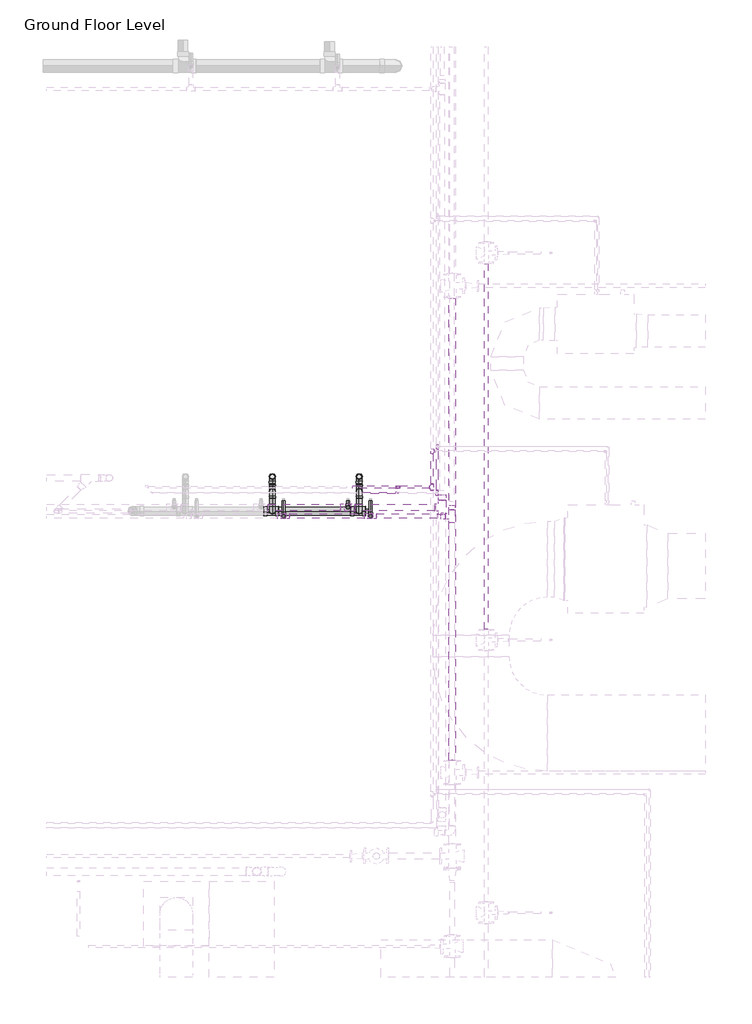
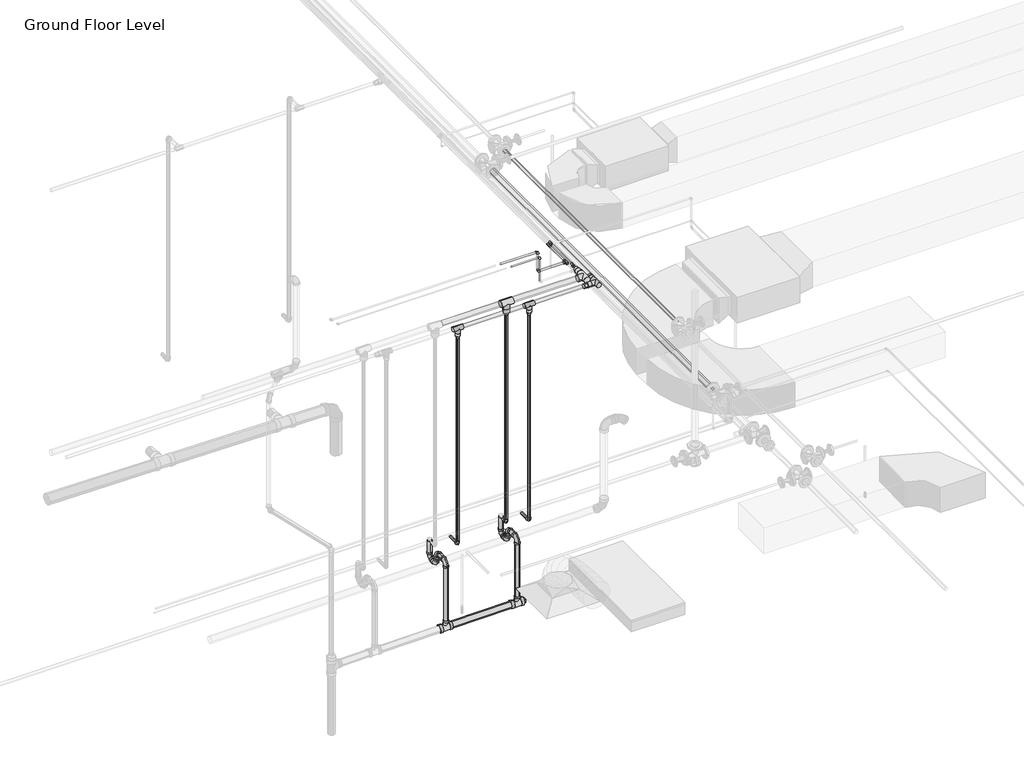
# One storey, part 18 of 75: 37 pipe fittings, 30 pipe segments.
"""IFC4 building model written with IfcOpenShell, lengths in millimetres."""

from ifc_helpers import new_model, si_unit, point, frame, frame_2d, origin, place, context, project, spatial, circle_curve, trimmed, segment, composite_curve, outline, extrude, transform, mapped, element, save
from components import m_bend_pvc_sch_40_dwv_standard_1e7bdcc1, m_bend_pvc_sch_40_dwv_standard_776e50c4, m_bend_pvc_sch_40_dwv_standard_aab78995, m_elbow_generic_standard_73005802, m_elbow_generic_standard_bb5ffebe, m_plug_pvc_sch_40_dwv_standard_af737ab4, m_tee_generic_standard_5b2ed4d4, m_tee_generic_standard_cdc1cff5, m_tee_generic_standard_5078887e, m_tee_generic_standard_bbfc025c, m_tee_reducing_sanitary_pvc_sch_40_dwv_standard_21d2848c, m_transition_generic_standard_6dc712c0, m_transition_generic_standard_2351da66, m_transition_generic_standard_44e35838, m_transition_generic_standard_22c7c9f4, standard_b266ab3f, standard_08ff6011, standard_cd25fed3, standard_5079833c, standard_bbae78af, standard_a995ec02, standard_83629b21, standard_9d5ac8af, standard_77f9104c

model = new_model("IFC4")

# Units and contexts
model_context = context("Model", 3, world=origin())
ifc_project = project(units=[si_unit("LENGTHUNIT", "METRE", prefix="MILLI")], contexts=[model_context])

# Site, building, storey
site = spatial("IfcSite", under=ifc_project)
building = spatial("IfcBuilding", under=site)
storey = spatial("IfcBuildingStorey", under=building, Name="Ground Floor Level", Elevation=900.0)

# Pipe fittings
placement = place(None, origin())
m_bend_pvc_sch_40_dwv_standard_shape = m_bend_pvc_sch_40_dwv_standard_1e7bdcc1(model_context)
element("IfcPipeFitting", 1, ObjectType="M_Bend - PVC - Sch 40 - DWV : Standard", at=placement, inside=storey, context=model_context, shape_type="MappedRepresentation", body=[
    mapped(m_bend_pvc_sch_40_dwv_standard_shape, transform((4826.7846789, -32541.2164355, 1350.0), x_axis=(0.0, 0.0, -1.0), y_axis=(0.0, -1.0, 0.0), z_axis=(-1.0, 0.0, 0.0))),
])
element("IfcPipeFitting", 2, ObjectType="M_Bend - PVC - Sch 40 - DWV : Standard", at=placement, inside=storey, context=model_context, shape_type="MappedRepresentation", body=[
    mapped(m_bend_pvc_sch_40_dwv_standard_shape, transform((4026.7846789, -32541.2164355, 1350.0), x_axis=(0.0, 0.0, -1.0), y_axis=(0.0, -1.0, 0.0), z_axis=(-1.0, 0.0, 0.0))),
])
element("IfcPipeFitting", 3, ObjectType="M_Bend - PVC - Sch 40 - DWV : Standard", at=placement, inside=storey, context=model_context, shape_type="MappedRepresentation", body=[
    mapped(m_bend_pvc_sch_40_dwv_standard_shape, transform((4026.7846789, -32858.7119065, 1488.4250453), x_axis=(0.0, -0.9999500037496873, -0.009999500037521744), y_axis=(0.0, 0.009999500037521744, -0.9999500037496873), z_axis=(1.0, 0.0, 0.0))),
])
m_bend_pvc_sch_40_dwv_standard_2_shape = m_bend_pvc_sch_40_dwv_standard_776e50c4(model_context)
element("IfcPipeFitting", 4, ObjectType="M_Bend - PVC - Sch 40 - DWV : Standard", at=placement, inside=storey, context=model_context, shape_type="MappedRepresentation", body=[
    mapped(m_bend_pvc_sch_40_dwv_standard_2_shape, transform((4826.7846789, -32676.2164355, 1348.45), x_axis=(0.0, -0.9999500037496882, -0.009999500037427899), y_axis=(0.0, -0.009999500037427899, 0.9999500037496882), z_axis=(-1.0, 0.0, 0.0))),
])
element("IfcPipeFitting", 5, ObjectType="M_Bend - PVC - Sch 40 - DWV : Standard", at=placement, inside=storey, context=model_context, shape_type="MappedRepresentation", body=[
    mapped(m_bend_pvc_sch_40_dwv_standard_2_shape, transform((4826.7846789, -32676.2164355, 1490.0), x_axis=(0.0, 0.0, 1.0), y_axis=(0.0, -1.0, 0.0), z_axis=(1.0, 0.0, 0.0))),
])
element("IfcPipeFitting", 6, ObjectType="M_Bend - PVC - Sch 40 - DWV : Standard", at=placement, inside=storey, context=model_context, shape_type="MappedRepresentation", body=[
    mapped(m_bend_pvc_sch_40_dwv_standard_2_shape, transform((4026.7846789, -32676.2164355, 1348.45), x_axis=(0.0, -0.9999500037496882, -0.009999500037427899), y_axis=(0.0, -0.009999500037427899, 0.9999500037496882), z_axis=(-1.0, 0.0, 0.0))),
])
element("IfcPipeFitting", 7, ObjectType="M_Bend - PVC - Sch 40 - DWV : Standard", at=placement, inside=storey, context=model_context, shape_type="MappedRepresentation", body=[
    mapped(m_bend_pvc_sch_40_dwv_standard_2_shape, transform((4026.7846789, -32676.2164355, 1490.0), x_axis=(0.0, 0.0, 1.0), y_axis=(0.0, -1.0, 0.0), z_axis=(1.0, 0.0, 0.0))),
])
m_bend_pvc_sch_40_dwv_standard_3_shape = m_bend_pvc_sch_40_dwv_standard_aab78995(model_context)
element("IfcPipeFitting", 8, ObjectType="M_Bend - PVC - Sch 40 - DWV : Standard", at=placement, inside=storey, context=model_context, shape_type="MappedRepresentation", body=[
    mapped(m_bend_pvc_sch_40_dwv_standard_3_shape, transform((4826.7846789, -32858.7119065, 1488.4250453), x_axis=(0.0, -0.999968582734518, -0.007926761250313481), y_axis=(0.0, 0.007926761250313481, -0.999968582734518), z_axis=(1.0, 0.0, 0.0))),
])
m_elbow_generic_standard_shape = m_elbow_generic_standard_73005802(model_context)
element("IfcPipeFitting", 9, ObjectType="M_Elbow - Generic : Standard", at=placement, inside=storey, context=model_context, shape_type="MappedRepresentation", body=[
    mapped(m_elbow_generic_standard_shape, transform((5183.4438829, -32638.716218, 4390.0), x_axis=(-1.0, 0.0, 0.0), y_axis=(0.0, 0.0, 1.0), z_axis=(0.0, 1.0, 0.0))),
])
element("IfcPipeFitting", 10, ObjectType="M_Elbow - Generic : Standard", at=placement, inside=storey, context=model_context, shape_type="MappedRepresentation", body=[
    mapped(m_elbow_generic_standard_shape, transform((5183.4438829, -32638.716218, 4621.4908765), x_axis=(0.0, 0.0, 1.0), y_axis=(-1.0, 0.0, 0.0), z_axis=(0.0, -1.0, 0.0))),
])
m_elbow_generic_standard_2_shape = m_elbow_generic_standard_bb5ffebe(model_context)
element("IfcPipeFitting", 11, ObjectType="M_Elbow - Generic : Standard", at=placement, inside=storey, context=model_context, shape_type="MappedRepresentation", body=[
    mapped(m_elbow_generic_standard_2_shape, transform((5176.1749541, -32691.5527522, 4591.0863665), x_axis=(0.0, 0.0, 1.0), y_axis=(-1.0, 0.0, 0.0), z_axis=(0.0, -1.0, 0.0))),
])
m_plug_pvc_sch_40_dwv_standard_shape = m_plug_pvc_sch_40_dwv_standard_af737ab4(model_context)
element("IfcPipeFitting", 12, ObjectType="M_Plug - PVC - Sch 40 - DWV : Standard", at=placement, inside=storey, context=model_context, shape_type="MappedRepresentation", body=[
    mapped(m_plug_pvc_sch_40_dwv_standard_shape, transform((4886.2674481, -32858.7119065, 723.0545203), x_axis=(0.9999500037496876, 0.0, 0.009999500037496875), y_axis=(0.009999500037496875, 0.0, -0.9999500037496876), z_axis=(0.0, 1.0, 0.0))),
])
m_tee_generic_standard_shape = m_tee_generic_standard_5b2ed4d4(model_context)
element("IfcPipeFitting", 13, ObjectType="M_Tee - Generic : Standard", at=placement, inside=storey, context=model_context, shape_type="MappedRepresentation", body=[
    mapped(m_tee_generic_standard_shape, transform((5543.9904113, -32264.9316538, 4377.5), x_axis=(0.0, -1.0, 0.0), y_axis=(0.0, 0.0, 1.0), z_axis=(-1.0, 0.0, 0.0))),
])
m_tee_generic_standard_2_shape = m_tee_generic_standard_cdc1cff5(model_context)
element("IfcPipeFitting", 14, ObjectType="M_Tee - Generic : Standard", at=placement, inside=storey, context=model_context, shape_type="MappedRepresentation", body=[
    mapped(m_tee_generic_standard_2_shape, transform((5543.9904113, -32691.5527522, 4377.5), x_axis=(0.0, -1.0, 0.0), y_axis=(0.0, 0.0, 1.0), z_axis=(-1.0, 0.0, 0.0))),
])
m_tee_generic_standard_3_shape = m_tee_generic_standard_5078887e(model_context)
element("IfcPipeFitting", 15, ObjectType="M_Tee - Generic : Standard", at=placement, inside=storey, context=model_context, shape_type="MappedRepresentation", body=[
    mapped(m_tee_generic_standard_3_shape, transform((5497.8951827, -32307.4513653, 4390.0), x_axis=(0.0, -1.0, 0.0), y_axis=(-1.0, 0.0, 0.0), z_axis=(0.0, 0.0, -1.0))),
])
m_tee_generic_standard_4_shape = m_tee_generic_standard_bbfc025c(model_context)
element("IfcPipeFitting", 16, ObjectType="M_Tee - Generic : Standard", at=placement, inside=storey, context=model_context, shape_type="MappedRepresentation", body=[
    mapped(m_tee_generic_standard_4_shape, transform((5497.8951827, -32638.716218, 4390.0), x_axis=(0.0, -1.0, 0.0), y_axis=(1.0, 0.0, 0.0), z_axis=(0.0, 0.0, 1.0))),
])
m_tee_reducing_sanitary_pvc_sch_40_dwv_standard_shape = m_tee_reducing_sanitary_pvc_sch_40_dwv_standard_21d2848c(model_context)
element("IfcPipeFitting", 17, ObjectType="M_Tee Reducing Sanitary - PVC - Sch 40 - DWV : Standard", at=placement, inside=storey, context=model_context, shape_type="MappedRepresentation", body=[
    mapped(m_tee_reducing_sanitary_pvc_sch_40_dwv_standard_shape, transform((4826.7846789, -32858.7119065, 722.4596926), x_axis=(0.9999500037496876, 0.0, 0.009999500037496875), y_axis=(0.009999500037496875, 0.0, -0.9999500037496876), z_axis=(0.0, 1.0, 0.0))),
])
element("IfcPipeFitting", 18, ObjectType="M_Tee Reducing Sanitary - PVC - Sch 40 - DWV : Standard", at=placement, inside=storey, context=model_context, shape_type="MappedRepresentation", body=[
    mapped(m_tee_reducing_sanitary_pvc_sch_40_dwv_standard_shape, transform((4026.7846789, -32858.7119065, 714.4596926), x_axis=(0.9999500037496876, 0.0, 0.009999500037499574), y_axis=(0.009999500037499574, 0.0, -0.9999500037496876), z_axis=(0.0, 1.0, 0.0))),
])
m_transition_generic_standard_shape = m_transition_generic_standard_6dc712c0(model_context)
element("IfcPipeFitting", 19, ObjectType="M_Transition - Generic : Standard", at=placement, inside=storey, context=model_context, shape_type="MappedRepresentation", body=[
    mapped(m_transition_generic_standard_shape, transform((5543.9904113, -32669.3277522, 4377.5), x_axis=(0.0, 1.0, 0.0), y_axis=(-1.0, 0.0, 0.0), z_axis=(0.0, 0.0, 1.0))),
])
element("IfcPipeFitting", 20, ObjectType="M_Transition - Generic : Standard", at=placement, inside=storey, context=model_context, shape_type="MappedRepresentation", body=[
    mapped(m_transition_generic_standard_shape, transform((5543.9904113, -32713.7777522, 4377.5), x_axis=(0.0, -1.0, 0.0), y_axis=(1.0, 0.0, 0.0), z_axis=(0.0, 0.0, 1.0))),
])
m_transition_generic_standard_2_shape = m_transition_generic_standard_2351da66(model_context)
element("IfcPipeFitting", 21, ObjectType="M_Transition - Generic : Standard", at=placement, inside=storey, context=model_context, shape_type="MappedRepresentation", body=[
    mapped(m_transition_generic_standard_2_shape, transform((5497.8951827, -32613.316218, 4390.0), x_axis=(0.0, 1.0, 0.0), y_axis=(-1.0, 0.0, 0.0), z_axis=(0.0, 0.0, 1.0))),
])
m_transition_generic_standard_3_shape = m_transition_generic_standard_44e35838(model_context)
element("IfcPipeFitting", 22, ObjectType="M_Transition - Generic : Standard", at=placement, inside=storey, context=model_context, shape_type="MappedRepresentation", body=[
    mapped(m_transition_generic_standard_3_shape, transform((5521.7076827, -32307.4513653, 4390.0), x_axis=(1.0, 0.0, 0.0), y_axis=(0.0, 1.0, 0.0), z_axis=(0.0, 0.0, 1.0))),
])
m_transition_generic_standard_4_shape = m_transition_generic_standard_22c7c9f4(model_context)
element("IfcPipeFitting", 23, ObjectType="M_Transition - Generic : Standard", at=placement, inside=storey, context=model_context, shape_type="MappedRepresentation", body=[
    mapped(m_transition_generic_standard_4_shape, transform((5497.8951827, -32664.116218, 4390.0), x_axis=(0.0, -1.0, 0.0), y_axis=(1.0, 0.0, 0.0), z_axis=(0.0, 0.0, 1.0))),
])
standard_shape = standard_b266ab3f(model_context)
element("IfcPipeFitting", 24, ObjectType="M_Elbow - CPVC - Sch 40 : Standard", at=placement, inside=storey, context=model_context, shape_type="MappedRepresentation", body=[
    mapped(standard_shape, transform((4722.4697583, -32824.9853451, 1690.0), x_axis=(0.0, 0.0, -1.0), y_axis=(0.0, 1.0, 0.0), z_axis=(1.0, 0.0, 0.0))),
])
element("IfcPipeFitting", 25, ObjectType="M_Elbow - CPVC - Sch 40 : Standard", at=placement, inside=storey, context=model_context, shape_type="MappedRepresentation", body=[
    mapped(standard_shape, transform((4931.0995995, -32905.870708, 1690.0), x_axis=(0.0, -1.0, 0.0), y_axis=(0.0, 0.0, 1.0), z_axis=(-1.0, 0.0, 0.0))),
])
element("IfcPipeFitting", 26, ObjectType="M_Elbow - CPVC - Sch 40 : Standard", at=placement, inside=storey, context=model_context, shape_type="MappedRepresentation", body=[
    mapped(standard_shape, transform((4131.0995995, -32905.870708, 1690.0), x_axis=(0.0, -1.0, 0.0), y_axis=(0.0, 0.0, 1.0), z_axis=(-1.0, 0.0, 0.0))),
])
standard_2_shape = standard_08ff6011(model_context)
element("IfcPipeFitting", 27, ObjectType="M_Tee - CPVC - Sch 40 : Standard", at=placement, inside=storey, context=model_context, shape_type="MappedRepresentation", body=[
    mapped(standard_2_shape, transform((4931.0995995, -32905.870708, 4250.0), x_axis=(1.0, 0.0, 0.0), y_axis=(0.0, 0.0, 1.0), z_axis=(0.0, -1.0, 0.0))),
])
element("IfcPipeFitting", 28, ObjectType="M_Tee - CPVC - Sch 40 : Standard", at=placement, inside=storey, context=model_context, shape_type="MappedRepresentation", body=[
    mapped(standard_2_shape, transform((4131.0995995, -32905.870708, 4250.0), x_axis=(1.0, 0.0, 0.0), y_axis=(0.0, 0.0, 1.0), z_axis=(0.0, -1.0, 0.0))),
])
standard_3_shape = standard_cd25fed3(model_context)
element("IfcPipeFitting", 29, ObjectType="M_Tee - CPVC - Sch 40 : Standard", at=placement, inside=storey, context=model_context, shape_type="MappedRepresentation", body=[
    mapped(standard_3_shape, transform((5589.646628, -32824.9853451, 4300.0), x_axis=(0.0, 1.0, 0.0), y_axis=(1.0, 0.0, 0.0), z_axis=(0.0, 0.0, -1.0))),
])
element("IfcPipeFitting", 30, ObjectType="M_Tee - CPVC - Sch 40 : Standard", at=placement, inside=storey, context=model_context, shape_type="MappedRepresentation", body=[
    mapped(standard_3_shape, transform((4722.4697583, -32824.9853451, 4300.0), x_axis=(-1.0, 0.0, 0.0), y_axis=(0.0, 0.0, 1.0), z_axis=(0.0, 1.0, 0.0))),
])
standard_4_shape = standard_5079833c(model_context)
element("IfcPipeFitting", 31, ObjectType="M_Coupling Reducing - CPVC - Sch 40 : Standard", at=placement, inside=storey, context=model_context, shape_type="MappedRepresentation", body=[
    mapped(standard_4_shape, transform((5589.646628, -32758.3103451, 4300.0), x_axis=(0.0, 1.0, 0.0), y_axis=(-1.0, 0.0, 0.0), z_axis=(0.0, 0.0, 1.0))),
])
standard_5_shape = standard_bbae78af(model_context)
element("IfcPipeFitting", 32, ObjectType="M_Tee - CPVC - Sch 40 : Standard", at=placement, inside=storey, context=model_context, shape_type="MappedRepresentation", body=[
    mapped(standard_5_shape, transform((5680.5575802, -32905.870708, 4250.0), x_axis=(0.0, -1.0, 0.0), y_axis=(1.0, 0.0, 0.0), z_axis=(0.0, 0.0, 1.0))),
])
standard_6_shape = standard_a995ec02(model_context)
element("IfcPipeFitting", 33, ObjectType="M_Coupling Reducing - CPVC - Sch 40 : Standard", at=placement, inside=storey, context=model_context, shape_type="MappedRepresentation", body=[
    mapped(standard_6_shape, transform((5621.8073802, -32905.870708, 4250.0), x_axis=(-1.0, 0.0, 0.0), y_axis=(0.0, -1.0, 0.0), z_axis=(0.0, 0.0, 1.0))),
])
standard_7_shape = standard_83629b21(model_context)
element("IfcPipeFitting", 34, ObjectType="M_Coupling Reducing - CPVC - Sch 40 : Standard", at=placement, inside=storey, context=model_context, shape_type="MappedRepresentation", body=[
    mapped(standard_7_shape, transform((4931.0995995, -32905.870708, 4196.025), x_axis=(0.0, 0.0, -1.0), y_axis=(-1.0, 0.0, 0.0), z_axis=(0.0, 1.0, 0.0))),
])
element("IfcPipeFitting", 35, ObjectType="M_Coupling Reducing - CPVC - Sch 40 : Standard", at=placement, inside=storey, context=model_context, shape_type="MappedRepresentation", body=[
    mapped(standard_7_shape, transform((4131.0995995, -32905.870708, 4196.025), x_axis=(0.0, 0.0, -1.0), y_axis=(-1.0, 0.0, 0.0), z_axis=(0.0, 1.0, 0.0))),
])
standard_8_shape = standard_9d5ac8af(model_context)
element("IfcPipeFitting", 36, ObjectType="M_Coupling Reducing - CPVC - Sch 40 : Standard", at=placement, inside=storey, context=model_context, shape_type="MappedRepresentation", body=[
    mapped(standard_8_shape, transform((4722.4697583, -32824.9853451, 4233.325), x_axis=(0.0, 0.0, -1.0), y_axis=(-1.0, 0.0, 0.0), z_axis=(0.0, 1.0, 0.0))),
])
standard_9_shape = standard_77f9104c(model_context)
element("IfcPipeFitting", 37, ObjectType="M_Coupling Reducing - CPVC - Sch 40 : Standard", at=placement, inside=storey, context=model_context, shape_type="MappedRepresentation", body=[
    mapped(standard_9_shape, transform((5680.5575802, -32847.120508, 4250.0), x_axis=(0.0, 1.0, 0.0), y_axis=(-1.0, 0.0, 0.0), z_axis=(0.0, 0.0, 1.0))),
])

# Pipe segments
element("IfcPipeSegment", 38, ObjectType="CPVC", at=placement, inside=storey, context=model_context, shape_type="SweptSolid", body=[
    extrude(outline(composite_curve([segment(trimmed(circle_curve(frame_2d((-32824.9853451, 4300.0)), 30.1625), [point((-32855.1478451, 4300.0))], [point((-32824.9853451, 4330.1625))], False, "CARTESIAN"), True, "CONTINUOUS"), segment(trimmed(circle_curve(frame_2d((-32824.9853451, 4300.0)), 30.1625), [point((-32824.9853451, 4330.1625))], [point((-32794.8228451, 4300.0))], False, "CARTESIAN"), True, "CONTINUOUS"), segment(trimmed(circle_curve(frame_2d((-32824.9853451, 4300.0)), 30.1625), [point((-32794.8228451, 4300.0))], [point((-32824.9853451, 4269.8375))], False, "CARTESIAN"), True, "CONTINUOUS"), segment(trimmed(circle_curve(frame_2d((-32824.9853451, 4300.0)), 30.1625), [point((-32824.9853451, 4269.8375))], [point((-32855.1478451, 4300.0))], False, "CARTESIAN"), True, "CONTINUOUS")], self_intersect=False)), frame((4789.1447583, 0.0, 0.0), z_axis=(1.0, 0.0, 0.0), x_axis=(0.0, 1.0, 0.0)), (0.0, 0.0, 1.0), 733.8268697),
])
element("IfcPipeSegment", 39, ObjectType="CPVC", at=placement, inside=storey, context=model_context, shape_type="SweptSolid", body=[
    extrude(outline(composite_curve([segment(trimmed(circle_curve(frame_2d((1690.0, 4722.4697583)), 13.335), [point((1690.0, 4735.8047583))], [point((1703.335, 4722.4697583))], False, "CARTESIAN"), True, "CONTINUOUS"), segment(trimmed(circle_curve(frame_2d((1690.0, 4722.4697583)), 13.335), [point((1703.335, 4722.4697583))], [point((1690.0, 4709.1347583))], False, "CARTESIAN"), True, "CONTINUOUS"), segment(trimmed(circle_curve(frame_2d((1690.0, 4722.4697583)), 13.335), [point((1690.0, 4709.1347583))], [point((1676.665, 4722.4697583))], False, "CARTESIAN"), True, "CONTINUOUS"), segment(trimmed(circle_curve(frame_2d((1690.0, 4722.4697583)), 13.335), [point((1676.665, 4722.4697583))], [point((1690.0, 4735.8047583))], False, "CARTESIAN"), True, "CONTINUOUS")], self_intersect=False)), frame((0.0, -32789.6602951, 0.0), z_axis=(0.0, 1.0, 0.0), x_axis=(0.0, 0.0, 1.0)), (0.0, 0.0, 1.0), 24.8756485),
])
element("IfcPipeSegment", 40, ObjectType="CPVC", at=placement, inside=storey, context=model_context, shape_type="SweptSolid", body=[
    extrude(outline(composite_curve([segment(trimmed(circle_curve(frame_2d((4722.4697583, -32824.9853451)), 13.335), [point((4735.8047583, -32824.9853451))], [point((4722.4697583, -32838.3203451))], False, "CARTESIAN"), True, "CONTINUOUS"), segment(trimmed(circle_curve(frame_2d((4722.4697583, -32824.9853451)), 13.335), [point((4722.4697583, -32838.3203451))], [point((4709.1347583, -32824.9853451))], False, "CARTESIAN"), True, "CONTINUOUS"), segment(trimmed(circle_curve(frame_2d((4722.4697583, -32824.9853451)), 13.335), [point((4709.1347583, -32824.9853451))], [point((4722.4697583, -32811.6503451))], False, "CARTESIAN"), True, "CONTINUOUS"), segment(trimmed(circle_curve(frame_2d((4722.4697583, -32824.9853451)), 13.335), [point((4722.4697583, -32811.6503451))], [point((4735.8047583, -32824.9853451))], False, "CARTESIAN"), True, "CONTINUOUS")], self_intersect=False)), frame((0.0, 0.0, 1725.32505), z_axis=(0.0, 0.0, 1.0), x_axis=(1.0, 0.0, 0.0)), (0.0, 0.0, 1.0), 2431.503075),
])
element("IfcPipeSegment", 41, ObjectType="CPVC", at=placement, inside=storey, context=model_context, shape_type="SweptSolid", body=[
    extrude(outline(composite_curve([segment(trimmed(circle_curve(frame_2d((-32824.9853451, 4300.0)), 30.1625), [point((-32855.1478451, 4300.0))], [point((-32824.9853451, 4330.1625))], False, "CARTESIAN"), True, "CONTINUOUS"), segment(trimmed(circle_curve(frame_2d((-32824.9853451, 4300.0)), 30.1625), [point((-32824.9853451, 4330.1625))], [point((-32794.8228451, 4300.0))], False, "CARTESIAN"), True, "CONTINUOUS"), segment(trimmed(circle_curve(frame_2d((-32824.9853451, 4300.0)), 30.1625), [point((-32794.8228451, 4300.0))], [point((-32824.9853451, 4269.8375))], False, "CARTESIAN"), True, "CONTINUOUS"), segment(trimmed(circle_curve(frame_2d((-32824.9853451, 4300.0)), 30.1625), [point((-32824.9853451, 4269.8375))], [point((-32855.1478451, 4300.0))], False, "CARTESIAN"), True, "CONTINUOUS")], self_intersect=False)), frame((3989.1447583, 0.0, 0.0), z_axis=(1.0, 0.0, 0.0), x_axis=(0.0, 1.0, 0.0)), (0.0, 0.0, 1.0), 666.65),
])
element("IfcPipeSegment", 42, ObjectType="CPVC", at=placement, inside=storey, context=model_context, shape_type="SweptSolid", body=[
    extrude(outline(composite_curve([segment(trimmed(circle_curve(frame_2d((1690.0, 4931.0995995)), 13.335), [point((1690.0, 4917.7645995))], [point((1676.665, 4931.0995995))], False, "CARTESIAN"), True, "CONTINUOUS"), segment(trimmed(circle_curve(frame_2d((1690.0, 4931.0995995)), 13.335), [point((1676.665, 4931.0995995))], [point((1690.0, 4944.4345995))], False, "CARTESIAN"), True, "CONTINUOUS"), segment(trimmed(circle_curve(frame_2d((1690.0, 4931.0995995)), 13.335), [point((1690.0, 4944.4345995))], [point((1703.335, 4931.0995995))], False, "CARTESIAN"), True, "CONTINUOUS"), segment(trimmed(circle_curve(frame_2d((1690.0, 4931.0995995)), 13.335), [point((1703.335, 4931.0995995))], [point((1690.0, 4917.7645995))], False, "CARTESIAN"), True, "CONTINUOUS")], self_intersect=False)), frame((0.0, -32870.545658, 0.0), z_axis=(0.0, 1.0, 0.0), x_axis=(0.0, 0.0, 1.0)), (0.0, 0.0, 1.0), 105.7610114),
])
element("IfcPipeSegment", 43, ObjectType="CPVC", at=placement, inside=storey, context=model_context, shape_type="SweptSolid", body=[
    extrude(outline(composite_curve([segment(trimmed(circle_curve(frame_2d((4931.0995995, -32905.870708)), 13.335), [point((4917.7645995, -32905.870708))], [point((4931.0995995, -32892.535708))], False, "CARTESIAN"), True, "CONTINUOUS"), segment(trimmed(circle_curve(frame_2d((4931.0995995, -32905.870708)), 13.335), [point((4931.0995995, -32892.535708))], [point((4944.4345995, -32905.870708))], False, "CARTESIAN"), True, "CONTINUOUS"), segment(trimmed(circle_curve(frame_2d((4931.0995995, -32905.870708)), 13.335), [point((4944.4345995, -32905.870708))], [point((4931.0995995, -32919.205708))], False, "CARTESIAN"), True, "CONTINUOUS"), segment(trimmed(circle_curve(frame_2d((4931.0995995, -32905.870708)), 13.335), [point((4931.0995995, -32919.205708))], [point((4917.7645995, -32905.870708))], False, "CARTESIAN"), True, "CONTINUOUS")], self_intersect=False)), frame((0.0, 0.0, 1725.32505), z_axis=(0.0, 0.0, 1.0), x_axis=(1.0, 0.0, 0.0)), (0.0, 0.0, 1.0), 2407.883075),
])
element("IfcPipeSegment", 44, ObjectType="CPVC", at=placement, inside=storey, context=model_context, shape_type="SweptSolid", body=[
    extrude(outline(composite_curve([segment(trimmed(circle_curve(frame_2d((-32905.870708, 4250.0)), 21.082), [point((-32884.788708, 4250.0))], [point((-32905.870708, 4228.918))], False, "CARTESIAN"), True, "CONTINUOUS"), segment(trimmed(circle_curve(frame_2d((-32905.870708, 4250.0)), 21.082), [point((-32905.870708, 4228.918))], [point((-32926.952708, 4250.0))], False, "CARTESIAN"), True, "CONTINUOUS"), segment(trimmed(circle_curve(frame_2d((-32905.870708, 4250.0)), 21.082), [point((-32926.952708, 4250.0))], [point((-32905.870708, 4271.082))], False, "CARTESIAN"), True, "CONTINUOUS"), segment(trimmed(circle_curve(frame_2d((-32905.870708, 4250.0)), 21.082), [point((-32905.870708, 4271.082))], [point((-32884.788708, 4250.0))], False, "CARTESIAN"), True, "CONTINUOUS")], self_intersect=False)), frame((4985.0745995, 0.0, 0.0), z_axis=(1.0, 0.0, 0.0), x_axis=(0.0, 1.0, 0.0)), (0.0, 0.0, 1.0), 558.9940307),
])
element("IfcPipeSegment", 45, ObjectType="CPVC", at=placement, inside=storey, context=model_context, shape_type="SweptSolid", body=[
    extrude(outline(composite_curve([segment(trimmed(circle_curve(frame_2d((1690.0, 4131.0995995)), 13.335), [point((1690.0, 4117.7645995))], [point((1676.665, 4131.0995995))], False, "CARTESIAN"), True, "CONTINUOUS"), segment(trimmed(circle_curve(frame_2d((1690.0, 4131.0995995)), 13.335), [point((1676.665, 4131.0995995))], [point((1690.0, 4144.4345995))], False, "CARTESIAN"), True, "CONTINUOUS"), segment(trimmed(circle_curve(frame_2d((1690.0, 4131.0995995)), 13.335), [point((1690.0, 4144.4345995))], [point((1703.335, 4131.0995995))], False, "CARTESIAN"), True, "CONTINUOUS"), segment(trimmed(circle_curve(frame_2d((1690.0, 4131.0995995)), 13.335), [point((1703.335, 4131.0995995))], [point((1690.0, 4117.7645995))], False, "CARTESIAN"), True, "CONTINUOUS")], self_intersect=False)), frame((0.0, -32870.545658, 0.0), z_axis=(0.0, 1.0, 0.0), x_axis=(0.0, 0.0, 1.0)), (0.0, 0.0, 1.0), 105.7610114),
])
element("IfcPipeSegment", 46, ObjectType="CPVC", at=placement, inside=storey, context=model_context, shape_type="SweptSolid", body=[
    extrude(outline(composite_curve([segment(trimmed(circle_curve(frame_2d((4131.0995995, -32905.870708)), 13.335), [point((4117.7645995, -32905.870708))], [point((4131.0995995, -32892.535708))], False, "CARTESIAN"), True, "CONTINUOUS"), segment(trimmed(circle_curve(frame_2d((4131.0995995, -32905.870708)), 13.335), [point((4131.0995995, -32892.535708))], [point((4144.4345995, -32905.870708))], False, "CARTESIAN"), True, "CONTINUOUS"), segment(trimmed(circle_curve(frame_2d((4131.0995995, -32905.870708)), 13.335), [point((4144.4345995, -32905.870708))], [point((4131.0995995, -32919.205708))], False, "CARTESIAN"), True, "CONTINUOUS"), segment(trimmed(circle_curve(frame_2d((4131.0995995, -32905.870708)), 13.335), [point((4131.0995995, -32919.205708))], [point((4117.7645995, -32905.870708))], False, "CARTESIAN"), True, "CONTINUOUS")], self_intersect=False)), frame((0.0, 0.0, 1725.32505), z_axis=(0.0, 0.0, 1.0), x_axis=(1.0, 0.0, 0.0)), (0.0, 0.0, 1.0), 2407.883075),
])
element("IfcPipeSegment", 47, ObjectType="CPVC", at=placement, inside=storey, context=model_context, shape_type="SweptSolid", body=[
    extrude(outline(composite_curve([segment(trimmed(circle_curve(frame_2d((-32905.870708, 4250.0)), 21.082), [point((-32884.788708, 4250.0))], [point((-32905.870708, 4228.918))], False, "CARTESIAN"), True, "CONTINUOUS"), segment(trimmed(circle_curve(frame_2d((-32905.870708, 4250.0)), 21.082), [point((-32905.870708, 4228.918))], [point((-32926.952708, 4250.0))], False, "CARTESIAN"), True, "CONTINUOUS"), segment(trimmed(circle_curve(frame_2d((-32905.870708, 4250.0)), 21.082), [point((-32926.952708, 4250.0))], [point((-32905.870708, 4271.082))], False, "CARTESIAN"), True, "CONTINUOUS"), segment(trimmed(circle_curve(frame_2d((-32905.870708, 4250.0)), 21.082), [point((-32905.870708, 4271.082))], [point((-32884.788708, 4250.0))], False, "CARTESIAN"), True, "CONTINUOUS")], self_intersect=False)), frame((4185.0745995, 0.0, 0.0), z_axis=(1.0, 0.0, 0.0), x_axis=(0.0, 1.0, 0.0)), (0.0, 0.0, 1.0), 692.05),
])
element("IfcPipeSegment", 48, ObjectType="Copper", at=placement, inside=storey, context=model_context, shape_type="SweptSolid", body=[
    extrude(outline(composite_curve([segment(trimmed(circle_curve(frame_2d((-32638.716218, 4390.0)), 11.5), [point((-32650.216218, 4390.0))], [point((-32638.716218, 4401.5))], False, "CARTESIAN"), True, "CONTINUOUS"), segment(trimmed(circle_curve(frame_2d((-32638.716218, 4390.0)), 11.5), [point((-32638.716218, 4401.5))], [point((-32627.216218, 4390.0))], False, "CARTESIAN"), True, "CONTINUOUS"), segment(trimmed(circle_curve(frame_2d((-32638.716218, 4390.0)), 11.5), [point((-32627.216218, 4390.0))], [point((-32638.716218, 4378.5))], False, "CARTESIAN"), True, "CONTINUOUS"), segment(trimmed(circle_curve(frame_2d((-32638.716218, 4390.0)), 11.5), [point((-32638.716218, 4378.5))], [point((-32650.216218, 4390.0))], False, "CARTESIAN"), True, "CONTINUOUS")], self_intersect=False)), frame((5202.4938829, 0.0, 0.0), z_axis=(1.0, 0.0, 0.0), x_axis=(0.0, 1.0, 0.0)), (0.0, 0.0, 1.0), 270.0012998),
])
element("IfcPipeSegment", 49, ObjectType="Copper", at=placement, inside=storey, context=model_context, shape_type="SweptSolid", body=[
    extrude(outline(composite_curve([segment(trimmed(circle_curve(frame_2d((5176.1749541, -32691.5527522)), 8.1), [point((5168.0749541, -32691.5527522))], [point((5176.1749541, -32683.4527522))], False, "CARTESIAN"), True, "CONTINUOUS"), segment(trimmed(circle_curve(frame_2d((5176.1749541, -32691.5527522)), 8.1), [point((5176.1749541, -32683.4527522))], [point((5184.2749541, -32691.5527522))], False, "CARTESIAN"), True, "CONTINUOUS"), segment(trimmed(circle_curve(frame_2d((5176.1749541, -32691.5527522)), 8.1), [point((5184.2749541, -32691.5527522))], [point((5176.1749541, -32699.6527522))], False, "CARTESIAN"), True, "CONTINUOUS"), segment(trimmed(circle_curve(frame_2d((5176.1749541, -32691.5527522)), 8.1), [point((5176.1749541, -32699.6527522))], [point((5168.0749541, -32691.5527522))], False, "CARTESIAN"), True, "CONTINUOUS")], self_intersect=False)), frame((0.0, 0.0, 4315.875), z_axis=(0.0, 0.0, 1.0), x_axis=(1.0, 0.0, 0.0)), (0.0, 0.0, 1.0), 259.3363665),
])
element("IfcPipeSegment", 50, ObjectType="Copper", at=placement, inside=storey, context=model_context, shape_type="SweptSolid", body=[
    extrude(outline(composite_curve([segment(trimmed(circle_curve(frame_2d((5183.4438829, -32638.716218)), 11.5), [point((5171.9438829, -32638.716218))], [point((5183.4438829, -32627.216218))], False, "CARTESIAN"), True, "CONTINUOUS"), segment(trimmed(circle_curve(frame_2d((5183.4438829, -32638.716218)), 11.5), [point((5183.4438829, -32627.216218))], [point((5194.9438829, -32638.716218))], False, "CARTESIAN"), True, "CONTINUOUS"), segment(trimmed(circle_curve(frame_2d((5183.4438829, -32638.716218)), 11.5), [point((5194.9438829, -32638.716218))], [point((5183.4438829, -32650.216218))], False, "CARTESIAN"), True, "CONTINUOUS"), segment(trimmed(circle_curve(frame_2d((5183.4438829, -32638.716218)), 11.5), [point((5183.4438829, -32650.216218))], [point((5171.9438829, -32638.716218))], False, "CARTESIAN"), True, "CONTINUOUS")], self_intersect=False)), frame((0.0, 0.0, 4409.05), z_axis=(0.0, 0.0, 1.0), x_axis=(1.0, 0.0, 0.0)), (0.0, 0.0, 1.0), 193.3908765),
])
element("IfcPipeSegment", 51, ObjectType="Copper", at=placement, inside=storey, context=model_context, shape_type="SweptSolid", body=[
    extrude(outline(composite_curve([segment(trimmed(circle_curve(frame_2d((4390.0, 5497.8951827)), 9.75), [point((4390.0, 5507.6451827))], [point((4399.75, 5497.8951827))], False, "CARTESIAN"), True, "CONTINUOUS"), segment(trimmed(circle_curve(frame_2d((4390.0, 5497.8951827)), 9.75), [point((4399.75, 5497.8951827))], [point((4390.0, 5488.1451827))], False, "CARTESIAN"), True, "CONTINUOUS"), segment(trimmed(circle_curve(frame_2d((4390.0, 5497.8951827)), 9.75), [point((4390.0, 5488.1451827))], [point((4380.25, 5497.8951827))], False, "CARTESIAN"), True, "CONTINUOUS"), segment(trimmed(circle_curve(frame_2d((4390.0, 5497.8951827)), 9.75), [point((4380.25, 5497.8951827))], [point((4390.0, 5507.6451827))], False, "CARTESIAN"), True, "CONTINUOUS")], self_intersect=False)), frame((0.0, -32606.966218, 0.0), z_axis=(0.0, 1.0, 0.0), x_axis=(0.0, 0.0, 1.0)), (0.0, 0.0, 1.0), 275.7023527),
])
element("IfcPipeSegment", 52, ObjectType="Copper", at=placement, inside=storey, context=model_context, shape_type="SweptSolid", body=[
    extrude(outline(composite_curve([segment(trimmed(circle_curve(frame_2d((4377.5, 5543.9904113)), 6.5), [point((4377.5, 5550.4904113))], [point((4384.0, 5543.9904113))], False, "CARTESIAN"), True, "CONTINUOUS"), segment(trimmed(circle_curve(frame_2d((4377.5, 5543.9904113)), 6.5), [point((4384.0, 5543.9904113))], [point((4377.5, 5537.4904113))], False, "CARTESIAN"), True, "CONTINUOUS"), segment(trimmed(circle_curve(frame_2d((4377.5, 5543.9904113)), 6.5), [point((4377.5, 5537.4904113))], [point((4371.0, 5543.9904113))], False, "CARTESIAN"), True, "CONTINUOUS"), segment(trimmed(circle_curve(frame_2d((4377.5, 5543.9904113)), 6.5), [point((4371.0, 5543.9904113))], [point((4377.5, 5550.4904113))], False, "CARTESIAN"), True, "CONTINUOUS")], self_intersect=False)), frame((0.0, -32664.5652522, 0.0), z_axis=(0.0, 1.0, 0.0), x_axis=(0.0, 0.0, 1.0)), (0.0, 0.0, 1.0), 378.9960985),
])
element("IfcPipeSegment", 53, ObjectType="Copper", at=placement, inside=storey, context=model_context, shape_type="SweptSolid", body=[
    extrude(outline(composite_curve([segment(trimmed(circle_curve(frame_2d((-32638.716218, 4621.4908765)), 11.5), [point((-32650.216218, 4621.4908765))], [point((-32638.716218, 4632.9908765))], False, "CARTESIAN"), True, "CONTINUOUS"), segment(trimmed(circle_curve(frame_2d((-32638.716218, 4621.4908765)), 11.5), [point((-32638.716218, 4632.9908765))], [point((-32627.216218, 4621.4908765))], False, "CARTESIAN"), True, "CONTINUOUS"), segment(trimmed(circle_curve(frame_2d((-32638.716218, 4621.4908765)), 11.5), [point((-32627.216218, 4621.4908765))], [point((-32638.716218, 4609.9908765))], False, "CARTESIAN"), True, "CONTINUOUS"), segment(trimmed(circle_curve(frame_2d((-32638.716218, 4621.4908765)), 11.5), [point((-32638.716218, 4609.9908765))], [point((-32650.216218, 4621.4908765))], False, "CARTESIAN"), True, "CONTINUOUS")], self_intersect=False)), frame((4766.9205946, 0.0, 0.0), z_axis=(1.0, 0.0, 0.0), x_axis=(0.0, 1.0, 0.0)), (0.0, 0.0, 1.0), 397.4732883),
])
element("IfcPipeSegment", 54, ObjectType="Copper", at=placement, inside=storey, context=model_context, shape_type="SweptSolid", body=[
    extrude(outline(composite_curve([segment(trimmed(circle_curve(frame_2d((-32691.5527522, 4591.0863665)), 8.1), [point((-32683.4527522, 4591.0863665))], [point((-32691.5527522, 4582.9863665))], False, "CARTESIAN"), True, "CONTINUOUS"), segment(trimmed(circle_curve(frame_2d((-32691.5527522, 4591.0863665)), 8.1), [point((-32691.5527522, 4582.9863665))], [point((-32699.6527522, 4591.0863665))], False, "CARTESIAN"), True, "CONTINUOUS"), segment(trimmed(circle_curve(frame_2d((-32691.5527522, 4591.0863665)), 8.1), [point((-32699.6527522, 4591.0863665))], [point((-32691.5527522, 4599.1863665))], False, "CARTESIAN"), True, "CONTINUOUS"), segment(trimmed(circle_curve(frame_2d((-32691.5527522, 4591.0863665)), 8.1), [point((-32691.5527522, 4599.1863665))], [point((-32683.4527522, 4591.0863665))], False, "CARTESIAN"), True, "CONTINUOUS")], self_intersect=False)), frame((4856.6970185, 0.0, 0.0), z_axis=(1.0, 0.0, 0.0), x_axis=(0.0, 1.0, 0.0)), (0.0, 0.0, 1.0), 303.6029356),
])
element("IfcPipeSegment", 55, ObjectType="PVC - DWV", at=placement, inside=storey, context=model_context, shape_type="SweptSolid", body=[
    extrude(outline(composite_curve([segment(trimmed(circle_curve(frame_2d((4826.7846789, -32541.2164355)), 24.13), [point((4850.9146789, -32541.2164355))], [point((4826.7846789, -32565.3464355))], False, "CARTESIAN"), True, "CONTINUOUS"), segment(trimmed(circle_curve(frame_2d((4826.7846789, -32541.2164355)), 24.13), [point((4826.7846789, -32565.3464355))], [point((4802.6546789, -32541.2164355))], False, "CARTESIAN"), True, "CONTINUOUS"), segment(trimmed(circle_curve(frame_2d((4826.7846789, -32541.2164355)), 24.13), [point((4802.6546789, -32541.2164355))], [point((4826.7846789, -32517.0864355))], False, "CARTESIAN"), True, "CONTINUOUS"), segment(trimmed(circle_curve(frame_2d((4826.7846789, -32541.2164355)), 24.13), [point((4826.7846789, -32517.0864355))], [point((4850.9146789, -32541.2164355))], False, "CARTESIAN"), True, "CONTINUOUS")], self_intersect=False)), frame((0.0, 0.0, 1411.8998), z_axis=(0.0, 0.0, 1.0), x_axis=(1.0, 0.0, 0.0)), (0.0, 0.0, 1.0), 138.1002),
])
element("IfcPipeSegment", 56, ObjectType="PVC - DWV", at=placement, inside=storey, context=model_context, shape_type="SweptSolid", body=[
    extrude(outline(composite_curve([segment(trimmed(circle_curve(frame_2d((0.0, -24.13)), 24.13), [point((-24.13, -24.13))], [point((0.0, 0.0))], False, "CARTESIAN"), True, "CONTINUOUS"), segment(trimmed(circle_curve(frame_2d((0.0, -24.13)), 24.13), [point((0.0, 0.0))], [point((24.13, -24.13))], False, "CARTESIAN"), True, "CONTINUOUS"), segment(trimmed(circle_curve(frame_2d((0.0, -24.13)), 24.13), [point((24.13, -24.13))], [point((0.0, -48.2599999))], False, "CARTESIAN"), True, "CONTINUOUS"), segment(trimmed(circle_curve(frame_2d((0.0, -24.13)), 24.13), [point((0.0, -48.2599999))], [point((-24.13, -24.13))], False, "CARTESIAN"), True, "CONTINUOUS")], self_intersect=False)), frame((4826.7846789, -32614.0784423, 1324.9401735), z_axis=(0.0, 0.9999500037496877, 0.009999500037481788), x_axis=(1.0, 0.0, 0.0)), (0.0, 0.0, 1.0), 11.2091497),
])
element("IfcPipeSegment", 57, ObjectType="PVC - DWV", at=placement, inside=storey, context=model_context, shape_type="SweptSolid", body=[
    extrude(outline(composite_curve([segment(trimmed(circle_curve(frame_2d((4826.7846789, -32676.2164355)), 24.13), [point((4802.6546789, -32676.2164355))], [point((4826.7846789, -32652.0864355))], False, "CARTESIAN"), True, "CONTINUOUS"), segment(trimmed(circle_curve(frame_2d((4826.7846789, -32676.2164355)), 24.13), [point((4826.7846789, -32652.0864355))], [point((4850.9146789, -32676.2164355))], False, "CARTESIAN"), True, "CONTINUOUS"), segment(trimmed(circle_curve(frame_2d((4826.7846789, -32676.2164355)), 24.13), [point((4850.9146789, -32676.2164355))], [point((4826.7846789, -32700.3464355))], False, "CARTESIAN"), True, "CONTINUOUS"), segment(trimmed(circle_curve(frame_2d((4826.7846789, -32676.2164355)), 24.13), [point((4826.7846789, -32700.3464355))], [point((4802.6546789, -32676.2164355))], False, "CARTESIAN"), True, "CONTINUOUS")], self_intersect=False)), frame((0.0, 0.0, 1410.3498), z_axis=(0.0, 0.0, 1.0), x_axis=(1.0, 0.0, 0.0)), (0.0, 0.0, 1.0), 17.7504),
])
element("IfcPipeSegment", 58, ObjectType="PVC - DWV", at=placement, inside=storey, context=model_context, shape_type="SweptSolid", body=[
    extrude(outline(composite_curve([segment(trimmed(circle_curve(frame_2d((0.0, -24.13)), 24.13), [point((-24.13, -24.13))], [point((0.0, 0.0))], False, "CARTESIAN"), True, "CONTINUOUS"), segment(trimmed(circle_curve(frame_2d((0.0, -24.13)), 24.13), [point((0.0, 0.0))], [point((24.13, -24.13))], False, "CARTESIAN"), True, "CONTINUOUS"), segment(trimmed(circle_curve(frame_2d((0.0, -24.13)), 24.13), [point((24.13, -24.13))], [point((0.0, -48.26))], False, "CARTESIAN"), True, "CONTINUOUS"), segment(trimmed(circle_curve(frame_2d((0.0, -24.13)), 24.13), [point((0.0, -48.26))], [point((-24.13, -24.13))], False, "CARTESIAN"), True, "CONTINUOUS")], self_intersect=False)), frame((4826.7846789, -32796.6227785, 1464.7864683), z_axis=(0.0, 0.9999685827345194, 0.007926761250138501), x_axis=(1.0, 0.0, 0.0)), (0.0, 0.0, 1.0), 58.7027548),
])
element("IfcPipeSegment", 59, ObjectType="PVC - DWV", at=placement, inside=storey, context=model_context, shape_type="SweptSolid", body=[
    extrude(outline(composite_curve([segment(trimmed(circle_curve(frame_2d((4826.7846789, -32858.7119065)), 24.13), [point((4802.6546789, -32858.7119065))], [point((4826.7846789, -32834.5819065))], False, "CARTESIAN"), True, "CONTINUOUS"), segment(trimmed(circle_curve(frame_2d((4826.7846789, -32858.7119065)), 24.13), [point((4826.7846789, -32834.5819065))], [point((4850.9146789, -32858.7119065))], False, "CARTESIAN"), True, "CONTINUOUS"), segment(trimmed(circle_curve(frame_2d((4826.7846789, -32858.7119065)), 24.13), [point((4850.9146789, -32858.7119065))], [point((4826.7846789, -32882.8419065))], False, "CARTESIAN"), True, "CONTINUOUS"), segment(trimmed(circle_curve(frame_2d((4826.7846789, -32858.7119065)), 24.13), [point((4826.7846789, -32882.8419065))], [point((4802.6546789, -32858.7119065))], False, "CARTESIAN"), True, "CONTINUOUS")], self_intersect=False)), frame((0.0, 0.0, 803.3071488), z_axis=(0.0, 0.0, 1.0), x_axis=(1.0, 0.0, 0.0)), (0.0, 0.0, 1.0), 623.2180965),
])
element("IfcPipeSegment", 60, ObjectType="PVC - DWV", at=placement, inside=storey, context=model_context, shape_type="SweptSolid", body=[
    extrude(outline(composite_curve([segment(trimmed(circle_curve(frame_2d((4026.7846789, -32541.2164355)), 24.13), [point((4050.9146789, -32541.2164355))], [point((4026.7846789, -32565.3464355))], False, "CARTESIAN"), True, "CONTINUOUS"), segment(trimmed(circle_curve(frame_2d((4026.7846789, -32541.2164355)), 24.13), [point((4026.7846789, -32565.3464355))], [point((4002.6546789, -32541.2164355))], False, "CARTESIAN"), True, "CONTINUOUS"), segment(trimmed(circle_curve(frame_2d((4026.7846789, -32541.2164355)), 24.13), [point((4002.6546789, -32541.2164355))], [point((4026.7846789, -32517.0864355))], False, "CARTESIAN"), True, "CONTINUOUS"), segment(trimmed(circle_curve(frame_2d((4026.7846789, -32541.2164355)), 24.13), [point((4026.7846789, -32517.0864355))], [point((4050.9146789, -32541.2164355))], False, "CARTESIAN"), True, "CONTINUOUS")], self_intersect=False)), frame((0.0, 0.0, 1411.8998), z_axis=(0.0, 0.0, 1.0), x_axis=(1.0, 0.0, 0.0)), (0.0, 0.0, 1.0), 138.1002),
])
element("IfcPipeSegment", 61, ObjectType="PVC - DWV", at=placement, inside=storey, context=model_context, shape_type="SweptSolid", body=[
    extrude(outline(composite_curve([segment(trimmed(circle_curve(frame_2d((0.0, -24.13)), 24.13), [point((-24.13, -24.13))], [point((0.0, 0.0))], False, "CARTESIAN"), True, "CONTINUOUS"), segment(trimmed(circle_curve(frame_2d((0.0, -24.13)), 24.13), [point((0.0, 0.0))], [point((24.13, -24.13))], False, "CARTESIAN"), True, "CONTINUOUS"), segment(trimmed(circle_curve(frame_2d((0.0, -24.13)), 24.13), [point((24.13, -24.13))], [point((0.0, -48.2599999))], False, "CARTESIAN"), True, "CONTINUOUS"), segment(trimmed(circle_curve(frame_2d((0.0, -24.13)), 24.13), [point((0.0, -48.2599999))], [point((-24.13, -24.13))], False, "CARTESIAN"), True, "CONTINUOUS")], self_intersect=False)), frame((4026.7846789, -32614.0804421, 1325.1401535), z_axis=(0.0, 0.9999500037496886, 0.009999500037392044), x_axis=(1.0, 0.0, 0.0)), (0.0, 0.0, 1.0), 11.2091497),
])
element("IfcPipeSegment", 62, ObjectType="PVC - DWV", at=placement, inside=storey, context=model_context, shape_type="SweptSolid", body=[
    extrude(outline(composite_curve([segment(trimmed(circle_curve(frame_2d((4026.7846789, -32676.2164355)), 24.13), [point((4002.6546789, -32676.2164355))], [point((4026.7846789, -32652.0864355))], False, "CARTESIAN"), True, "CONTINUOUS"), segment(trimmed(circle_curve(frame_2d((4026.7846789, -32676.2164355)), 24.13), [point((4026.7846789, -32652.0864355))], [point((4050.9146789, -32676.2164355))], False, "CARTESIAN"), True, "CONTINUOUS"), segment(trimmed(circle_curve(frame_2d((4026.7846789, -32676.2164355)), 24.13), [point((4050.9146789, -32676.2164355))], [point((4026.7846789, -32700.3464355))], False, "CARTESIAN"), True, "CONTINUOUS"), segment(trimmed(circle_curve(frame_2d((4026.7846789, -32676.2164355)), 24.13), [point((4026.7846789, -32700.3464355))], [point((4002.6546789, -32676.2164355))], False, "CARTESIAN"), True, "CONTINUOUS")], self_intersect=False)), frame((0.0, 0.0, 1410.3498), z_axis=(0.0, 0.0, 1.0), x_axis=(1.0, 0.0, 0.0)), (0.0, 0.0, 1.0), 17.7504),
])
element("IfcPipeSegment", 63, ObjectType="PVC - DWV", at=placement, inside=storey, context=model_context, shape_type="SweptSolid", body=[
    extrude(outline(composite_curve([segment(trimmed(circle_curve(frame_2d((0.0, -24.1299999)), 24.13), [point((-24.13, -24.1299999))], [point((0.0, 0.0))], False, "CARTESIAN"), True, "CONTINUOUS"), segment(trimmed(circle_curve(frame_2d((0.0, -24.1299999)), 24.13), [point((0.0, 0.0))], [point((24.13, -24.1299999))], False, "CARTESIAN"), True, "CONTINUOUS"), segment(trimmed(circle_curve(frame_2d((0.0, -24.1299999)), 24.13), [point((24.13, -24.1299999))], [point((0.0, -48.2599999))], False, "CARTESIAN"), True, "CONTINUOUS"), segment(trimmed(circle_curve(frame_2d((0.0, -24.1299999)), 24.13), [point((0.0, -48.2599999))], [point((-24.13, -24.1299999))], False, "CARTESIAN"), True, "CONTINUOUS")], self_intersect=False)), frame((4026.7846789, -32796.5739134, 1464.9152188), z_axis=(0.0, 0.9999500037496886, 0.009999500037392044), x_axis=(1.0, 0.0, 0.0)), (0.0, 0.0, 1.0), 58.7024958),
])
element("IfcPipeSegment", 64, ObjectType="PVC - DWV", at=placement, inside=storey, context=model_context, shape_type="SweptSolid", body=[
    extrude(outline(composite_curve([segment(trimmed(circle_curve(frame_2d((4026.7846789, -32858.7119065)), 24.13), [point((4002.6546789, -32858.7119065))], [point((4026.7846789, -32834.5819065))], False, "CARTESIAN"), True, "CONTINUOUS"), segment(trimmed(circle_curve(frame_2d((4026.7846789, -32858.7119065)), 24.13), [point((4026.7846789, -32834.5819065))], [point((4050.9146789, -32858.7119065))], False, "CARTESIAN"), True, "CONTINUOUS"), segment(trimmed(circle_curve(frame_2d((4026.7846789, -32858.7119065)), 24.13), [point((4050.9146789, -32858.7119065))], [point((4026.7846789, -32882.8419065))], False, "CARTESIAN"), True, "CONTINUOUS"), segment(trimmed(circle_curve(frame_2d((4026.7846789, -32858.7119065)), 24.13), [point((4026.7846789, -32882.8419065))], [point((4002.6546789, -32858.7119065))], False, "CARTESIAN"), True, "CONTINUOUS")], self_intersect=False)), frame((0.0, 0.0, 795.3071488), z_axis=(0.0, 0.0, 1.0), x_axis=(1.0, 0.0, 0.0)), (0.0, 0.0, 1.0), 631.2180965),
])
element("IfcPipeSegment", 65, ObjectType="PVC - DWV", at=placement, inside=storey, context=model_context, shape_type="SweptSolid", body=[
    extrude(outline(composite_curve([segment(trimmed(circle_curve(frame_2d((0.0, -36.5125)), 36.5125), [point((0.0, 0.0))], [point((36.5125, -36.5125))], False, "CARTESIAN"), True, "CONTINUOUS"), segment(trimmed(circle_curve(frame_2d((0.0, -36.5125)), 36.5125), [point((36.5125, -36.5125))], [point((0.0, -73.025))], False, "CARTESIAN"), True, "CONTINUOUS"), segment(trimmed(circle_curve(frame_2d((0.0, -36.5125)), 36.5125), [point((0.0, -73.025))], [point((-36.5125, -36.5125))], False, "CARTESIAN"), True, "CONTINUOUS"), segment(trimmed(circle_curve(frame_2d((0.0, -36.5125)), 36.5125), [point((-36.5125, -36.5125))], [point((0.0, 0.0))], False, "CARTESIAN"), True, "CONTINUOUS")], self_intersect=False)), frame((4086.2674481, -32822.1994065, 715.0545203), z_axis=(0.9999500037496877, 0.0, 0.00999950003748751), x_axis=(0.00999950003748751, 0.0, -0.9999500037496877)), (0.0, 0.0, 1.0), 661.4911369),
])
element("IfcPipeSegment", 66, ObjectType="Steel flanged", at=placement, inside=storey, context=model_context, shape_type="SweptSolid", body=[
    extrude(outline(composite_curve([segment(trimmed(circle_curve(frame_2d((4291.0943441, 5997.057812)), 16.7005), [point((4291.0943441, 5980.357312))], [point((4274.3938441, 5997.057812))], False, "CARTESIAN"), True, "CONTINUOUS"), segment(trimmed(circle_curve(frame_2d((4291.0943441, 5997.057812)), 16.7005), [point((4274.3938441, 5997.057812))], [point((4291.0943441, 6013.758312))], False, "CARTESIAN"), True, "CONTINUOUS"), segment(trimmed(circle_curve(frame_2d((4291.0943441, 5997.057812)), 16.7005), [point((4291.0943441, 6013.758312))], [point((4307.7948441, 5997.057812))], False, "CARTESIAN"), True, "CONTINUOUS"), segment(trimmed(circle_curve(frame_2d((4291.0943441, 5997.057812)), 16.7005), [point((4307.7948441, 5997.057812))], [point((4291.0943441, 5980.357312))], False, "CARTESIAN"), True, "CONTINUOUS")], self_intersect=False)), frame((0.0, -33944.3428382, 0.0), z_axis=(0.0, 1.0, 0.0), x_axis=(0.0, 0.0, 1.0)), (0.0, 0.0, 1.0), 3360.5600046),
])
element("IfcPipeSegment", 67, ObjectType="Steel flanged", at=placement, inside=storey, context=model_context, shape_type="SweptSolid", body=[
    extrude(outline(composite_curve([segment(trimmed(circle_curve(frame_2d((4347.5, 5684.6174894)), 30.1625), [point((4347.5, 5714.7799894))], [point((4377.6625, 5684.6174894))], False, "CARTESIAN"), True, "CONTINUOUS"), segment(trimmed(circle_curve(frame_2d((4347.5, 5684.6174894)), 30.1625), [point((4377.6625, 5684.6174894))], [point((4347.5, 5654.4549894))], False, "CARTESIAN"), True, "CONTINUOUS"), segment(trimmed(circle_curve(frame_2d((4347.5, 5684.6174894)), 30.1625), [point((4347.5, 5654.4549894))], [point((4317.3375, 5684.6174894))], False, "CARTESIAN"), True, "CONTINUOUS"), segment(trimmed(circle_curve(frame_2d((4347.5, 5684.6174894)), 30.1625), [point((4317.3375, 5684.6174894))], [point((4347.5, 5714.7799894))], False, "CARTESIAN"), True, "CONTINUOUS")], self_intersect=False)), frame((0.0, -35150.7846466, 0.0), z_axis=(0.0, 1.0, 0.0), x_axis=(0.0, 0.0, 1.0)), (0.0, 0.0, 1.0), 4251.6062662),
])

save(model, "model.ifc")
